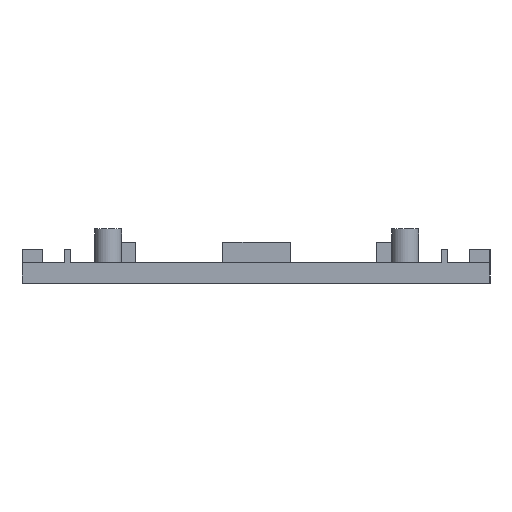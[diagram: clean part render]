
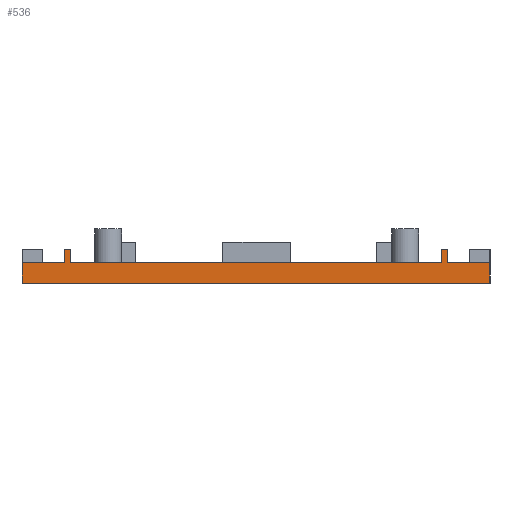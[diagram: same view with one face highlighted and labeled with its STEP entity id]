
A CAD part, left-side view. The second image highlights one B-rep face of the part: STEP entity #536.
In plain terms, the highlighted planar face has unit normal (-1, 0, 0).
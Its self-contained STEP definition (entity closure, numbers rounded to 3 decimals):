
#98 = VERTEX_POINT('',#99);
#99 = CARTESIAN_POINT('',(-69.5,-34.5,2.));
#116 = VERTEX_POINT('',#117);
#117 = CARTESIAN_POINT('',(-69.5,34.5,2.));
#123 = EDGE_CURVE('',#116,#98,#124,.T.);
#124 = LINE('',#125,#126);
#125 = CARTESIAN_POINT('',(-69.5,34.5,2.));
#126 = VECTOR('',#127,1.);
#127 = DIRECTION('',(0.,-1.,0.));
#445 = EDGE_CURVE('',#98,#446,#448,.T.);
#446 = VERTEX_POINT('',#447);
#447 = CARTESIAN_POINT('',(-69.5,-34.5,5.));
#448 = LINE('',#449,#450);
#449 = CARTESIAN_POINT('',(-69.5,-34.5,0.));
#450 = VECTOR('',#451,1.);
#451 = DIRECTION('',(0.,0.,1.));
#536 = ADVANCED_FACE('',(#537),#619,.T.);
#537 = FACE_BOUND('',#538,.T.);
#538 = EDGE_LOOP('',(#539,#547,#548,#549,#557,#565,#573,#581,#589,#597,
    #605,#613));
#539 = ORIENTED_EDGE('',*,*,#540,.F.);
#540 = EDGE_CURVE('',#116,#541,#543,.T.);
#541 = VERTEX_POINT('',#542);
#542 = CARTESIAN_POINT('',(-69.5,34.5,5.));
#543 = LINE('',#544,#545);
#544 = CARTESIAN_POINT('',(-69.5,34.5,0.));
#545 = VECTOR('',#546,1.);
#546 = DIRECTION('',(0.,0.,1.));
#547 = ORIENTED_EDGE('',*,*,#123,.T.);
#548 = ORIENTED_EDGE('',*,*,#445,.T.);
#549 = ORIENTED_EDGE('',*,*,#550,.F.);
#550 = EDGE_CURVE('',#551,#446,#553,.T.);
#551 = VERTEX_POINT('',#552);
#552 = CARTESIAN_POINT('',(-69.5,-28.3,5.));
#553 = LINE('',#554,#555);
#554 = CARTESIAN_POINT('',(-69.5,34.5,5.));
#555 = VECTOR('',#556,1.);
#556 = DIRECTION('',(0.,-1.,0.));
#557 = ORIENTED_EDGE('',*,*,#558,.T.);
#558 = EDGE_CURVE('',#551,#559,#561,.T.);
#559 = VERTEX_POINT('',#560);
#560 = CARTESIAN_POINT('',(-69.5,-28.3,7.));
#561 = LINE('',#562,#563);
#562 = CARTESIAN_POINT('',(-69.5,-28.3,5.));
#563 = VECTOR('',#564,1.);
#564 = DIRECTION('',(0.,0.,1.));
#565 = ORIENTED_EDGE('',*,*,#566,.T.);
#566 = EDGE_CURVE('',#559,#567,#569,.T.);
#567 = VERTEX_POINT('',#568);
#568 = CARTESIAN_POINT('',(-69.5,-27.3,7.));
#569 = LINE('',#570,#571);
#570 = CARTESIAN_POINT('',(-69.5,-28.3,7.));
#571 = VECTOR('',#572,1.);
#572 = DIRECTION('',(0.,1.,0.));
#573 = ORIENTED_EDGE('',*,*,#574,.F.);
#574 = EDGE_CURVE('',#575,#567,#577,.T.);
#575 = VERTEX_POINT('',#576);
#576 = CARTESIAN_POINT('',(-69.5,-27.3,5.));
#577 = LINE('',#578,#579);
#578 = CARTESIAN_POINT('',(-69.5,-27.3,5.));
#579 = VECTOR('',#580,1.);
#580 = DIRECTION('',(0.,0.,1.));
#581 = ORIENTED_EDGE('',*,*,#582,.F.);
#582 = EDGE_CURVE('',#583,#575,#585,.T.);
#583 = VERTEX_POINT('',#584);
#584 = CARTESIAN_POINT('',(-69.5,27.3,5.));
#585 = LINE('',#586,#587);
#586 = CARTESIAN_POINT('',(-69.5,34.5,5.));
#587 = VECTOR('',#588,1.);
#588 = DIRECTION('',(0.,-1.,0.));
#589 = ORIENTED_EDGE('',*,*,#590,.T.);
#590 = EDGE_CURVE('',#583,#591,#593,.T.);
#591 = VERTEX_POINT('',#592);
#592 = CARTESIAN_POINT('',(-69.5,27.3,7.));
#593 = LINE('',#594,#595);
#594 = CARTESIAN_POINT('',(-69.5,27.3,5.));
#595 = VECTOR('',#596,1.);
#596 = DIRECTION('',(0.,0.,1.));
#597 = ORIENTED_EDGE('',*,*,#598,.F.);
#598 = EDGE_CURVE('',#599,#591,#601,.T.);
#599 = VERTEX_POINT('',#600);
#600 = CARTESIAN_POINT('',(-69.5,28.3,7.));
#601 = LINE('',#602,#603);
#602 = CARTESIAN_POINT('',(-69.5,28.3,7.));
#603 = VECTOR('',#604,1.);
#604 = DIRECTION('',(0.,-1.,0.));
#605 = ORIENTED_EDGE('',*,*,#606,.F.);
#606 = EDGE_CURVE('',#607,#599,#609,.T.);
#607 = VERTEX_POINT('',#608);
#608 = CARTESIAN_POINT('',(-69.5,28.3,5.));
#609 = LINE('',#610,#611);
#610 = CARTESIAN_POINT('',(-69.5,28.3,5.));
#611 = VECTOR('',#612,1.);
#612 = DIRECTION('',(0.,0.,1.));
#613 = ORIENTED_EDGE('',*,*,#614,.F.);
#614 = EDGE_CURVE('',#541,#607,#615,.T.);
#615 = LINE('',#616,#617);
#616 = CARTESIAN_POINT('',(-69.5,34.5,5.));
#617 = VECTOR('',#618,1.);
#618 = DIRECTION('',(0.,-1.,0.));
#619 = PLANE('',#620);
#620 = AXIS2_PLACEMENT_3D('',#621,#622,#623);
#621 = CARTESIAN_POINT('',(-69.5,0.,2.705));
#622 = DIRECTION('',(-1.,-0.,-0.));
#623 = DIRECTION('',(0.,0.,-1.));
